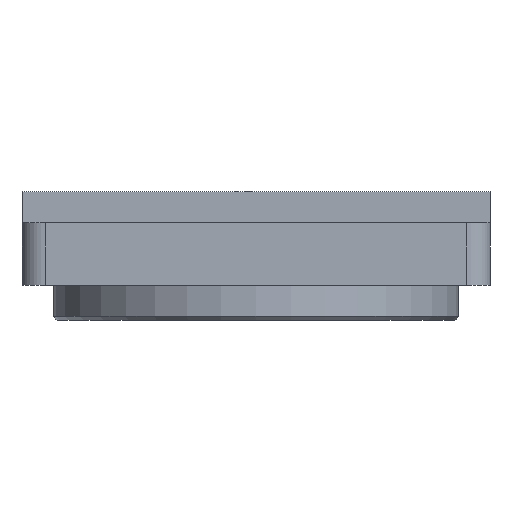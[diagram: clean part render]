
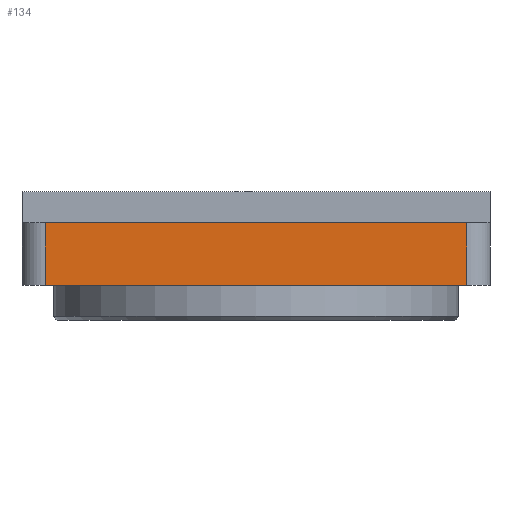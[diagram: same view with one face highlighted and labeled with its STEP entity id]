
A CAD part, front view. The second image highlights one B-rep face of the part: STEP entity #134.
In plain terms, the highlighted planar face has unit normal (0, -1, 0).
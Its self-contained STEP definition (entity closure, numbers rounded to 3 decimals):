
#117=FACE_OUTER_BOUND('',#320,.T.);
#134=ADVANCED_FACE('',(#117),#170,.T.);
#170=PLANE('',#688);
#190=LINE('',#952,#230);
#194=LINE('',#965,#234);
#195=LINE('',#968,#235);
#196=LINE('',#969,#236);
#230=VECTOR('',#771,1.);
#234=VECTOR('',#781,1.);
#235=VECTOR('',#782,1.);
#236=VECTOR('',#783,1.);
#320=EDGE_LOOP('',(#397,#398,#399,#400));
#397=ORIENTED_EDGE('',*,*,#594,.T.);
#398=ORIENTED_EDGE('',*,*,#595,.T.);
#399=ORIENTED_EDGE('',*,*,#588,.T.);
#400=ORIENTED_EDGE('',*,*,#596,.T.);
#533=VERTEX_POINT('',#953);
#534=VERTEX_POINT('',#954);
#539=VERTEX_POINT('',#966);
#540=VERTEX_POINT('',#967);
#588=EDGE_CURVE('',#533,#534,#190,.T.);
#594=EDGE_CURVE('',#539,#540,#194,.T.);
#595=EDGE_CURVE('',#540,#533,#195,.T.);
#596=EDGE_CURVE('',#534,#539,#196,.T.);
#688=AXIS2_PLACEMENT_3D('',#970,#784,#785);
#771=DIRECTION('',(-1.,0.,0.));
#781=DIRECTION('',(1.,0.,0.));
#782=DIRECTION('',(0.,0.,1.));
#783=DIRECTION('',(0.,0.,-1.));
#784=DIRECTION('',(0.,-1.,0.));
#785=DIRECTION('',(0.,0.,-1.));
#952=CARTESIAN_POINT('',(30.,0.,8.));
#953=CARTESIAN_POINT('',(57.,0.,8.));
#954=CARTESIAN_POINT('',(3.,0.,8.));
#965=CARTESIAN_POINT('',(30.,0.,0.));
#966=CARTESIAN_POINT('',(3.,0.,0.));
#967=CARTESIAN_POINT('',(57.,0.,0.));
#968=CARTESIAN_POINT('',(57.,0.,0.));
#969=CARTESIAN_POINT('',(3.,0.,0.));
#970=CARTESIAN_POINT('',(30.,0.,0.));
